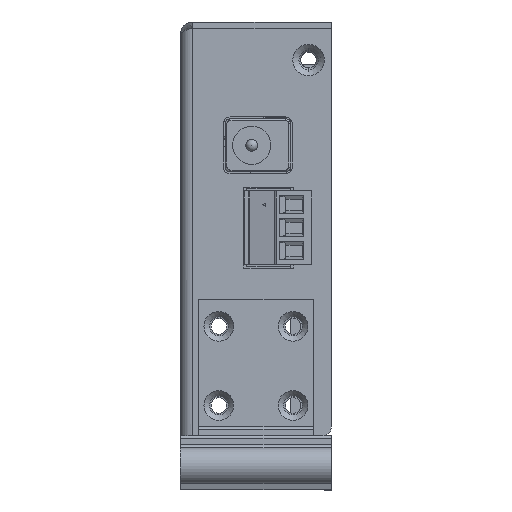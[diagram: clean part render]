
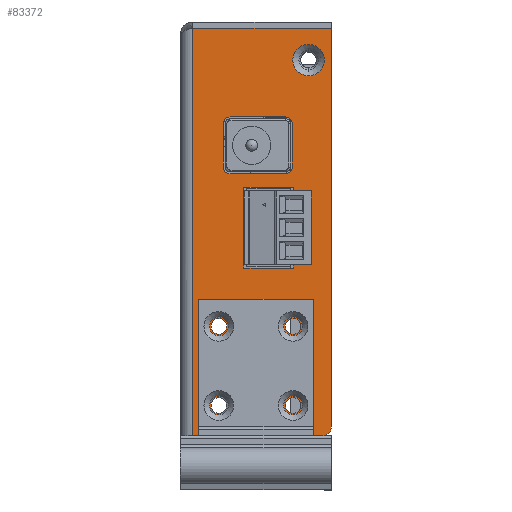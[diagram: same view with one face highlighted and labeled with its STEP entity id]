
A CAD part, left-side view. The second image highlights one B-rep face of the part: STEP entity #83372.
In plain terms, the highlighted planar face has unit normal (-1, 0, 0).
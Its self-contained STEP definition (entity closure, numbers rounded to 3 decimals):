
#350=FACE_BOUND('',#26896,.T.);
#351=FACE_BOUND('',#26897,.T.);
#352=FACE_BOUND('',#26898,.T.);
#353=FACE_BOUND('',#26899,.T.);
#354=FACE_BOUND('',#26900,.T.);
#355=FACE_BOUND('',#26901,.T.);
#356=FACE_BOUND('',#26902,.T.);
#357=FACE_BOUND('',#26903,.T.);
#1383=PLANE('',#89063);
#4465=LINE('',#128443,#12372);
#4469=LINE('',#128498,#12376);
#4513=LINE('',#128822,#12420);
#4514=LINE('',#128823,#12421);
#4515=LINE('',#128826,#12422);
#4516=LINE('',#128828,#12423);
#4517=LINE('',#128830,#12424);
#4518=LINE('',#128831,#12425);
#4519=LINE('',#128836,#12426);
#4520=LINE('',#128840,#12427);
#4521=LINE('',#128844,#12428);
#4522=LINE('',#128847,#12429);
#12372=VECTOR('',#101060,1000.);
#12376=VECTOR('',#101070,1000.);
#12420=VECTOR('',#101190,1000.);
#12421=VECTOR('',#101191,1000.);
#12422=VECTOR('',#101192,1000.);
#12423=VECTOR('',#101193,1000.);
#12424=VECTOR('',#101194,1000.);
#12425=VECTOR('',#101195,1000.);
#12426=VECTOR('',#101198,1000.);
#12427=VECTOR('',#101201,1000.);
#12428=VECTOR('',#101204,1000.);
#12429=VECTOR('',#101207,1000.);
#22155=FACE_OUTER_BOUND('',#26895,.T.);
#26895=EDGE_LOOP('',(#61033,#61034,#61035,#61036,#61037));
#26896=EDGE_LOOP('',(#61038));
#26897=EDGE_LOOP('',(#61039));
#26898=EDGE_LOOP('',(#61040));
#26899=EDGE_LOOP('',(#61041));
#26900=EDGE_LOOP('',(#61042));
#26901=EDGE_LOOP('',(#61043));
#26902=EDGE_LOOP('',(#61044,#61045,#61046,#61047));
#26903=EDGE_LOOP('',(#61048,#61049,#61050,#61051,#61052,#61053,#61054,#61055));
#31815=CIRCLE('',#89001,1.3);
#31817=CIRCLE('',#89004,1.3);
#31819=CIRCLE('',#89007,1.3);
#31821=CIRCLE('',#89010,1.3);
#31824=CIRCLE('',#89014,2.6);
#31826=CIRCLE('',#89017,2.6);
#31865=CIRCLE('',#89064,1.5);
#31866=CIRCLE('',#89065,1.1);
#31867=CIRCLE('',#89066,1.1);
#31868=CIRCLE('',#89067,1.1);
#31869=CIRCLE('',#89068,1.1);
#37171=VERTEX_POINT('',#128350);
#37173=VERTEX_POINT('',#128356);
#37175=VERTEX_POINT('',#128362);
#37177=VERTEX_POINT('',#128368);
#37180=VERTEX_POINT('',#128376);
#37182=VERTEX_POINT('',#128382);
#37191=VERTEX_POINT('',#128441);
#37192=VERTEX_POINT('',#128442);
#37197=VERTEX_POINT('',#128496);
#37271=VERTEX_POINT('',#128819);
#37272=VERTEX_POINT('',#128821);
#37273=VERTEX_POINT('',#128824);
#37274=VERTEX_POINT('',#128825);
#37275=VERTEX_POINT('',#128827);
#37276=VERTEX_POINT('',#128829);
#37277=VERTEX_POINT('',#128832);
#37278=VERTEX_POINT('',#128833);
#37279=VERTEX_POINT('',#128835);
#37280=VERTEX_POINT('',#128837);
#37281=VERTEX_POINT('',#128839);
#37282=VERTEX_POINT('',#128841);
#37283=VERTEX_POINT('',#128843);
#37284=VERTEX_POINT('',#128845);
#46216=EDGE_CURVE('',#37171,#37171,#31815,.T.);
#46219=EDGE_CURVE('',#37173,#37173,#31817,.T.);
#46222=EDGE_CURVE('',#37175,#37175,#31819,.T.);
#46225=EDGE_CURVE('',#37177,#37177,#31821,.T.);
#46230=EDGE_CURVE('',#37180,#37180,#31824,.T.);
#46233=EDGE_CURVE('',#37182,#37182,#31826,.T.);
#46244=EDGE_CURVE('',#37191,#37192,#4465,.T.);
#46251=EDGE_CURVE('',#37192,#37197,#4469,.T.);
#46332=EDGE_CURVE('',#37197,#37271,#31865,.T.);
#46333=EDGE_CURVE('',#37271,#37272,#4513,.T.);
#46334=EDGE_CURVE('',#37272,#37191,#4514,.T.);
#46335=EDGE_CURVE('',#37273,#37274,#4515,.T.);
#46336=EDGE_CURVE('',#37274,#37275,#4516,.T.);
#46337=EDGE_CURVE('',#37275,#37276,#4517,.T.);
#46338=EDGE_CURVE('',#37276,#37273,#4518,.T.);
#46339=EDGE_CURVE('',#37277,#37278,#31866,.T.);
#46340=EDGE_CURVE('',#37278,#37279,#4519,.T.);
#46341=EDGE_CURVE('',#37279,#37280,#31867,.T.);
#46342=EDGE_CURVE('',#37280,#37281,#4520,.T.);
#46343=EDGE_CURVE('',#37281,#37282,#31868,.T.);
#46344=EDGE_CURVE('',#37282,#37283,#4521,.T.);
#46345=EDGE_CURVE('',#37283,#37284,#31869,.T.);
#46346=EDGE_CURVE('',#37284,#37277,#4522,.T.);
#61033=ORIENTED_EDGE('',*,*,#46244,.T.);
#61034=ORIENTED_EDGE('',*,*,#46251,.T.);
#61035=ORIENTED_EDGE('',*,*,#46332,.T.);
#61036=ORIENTED_EDGE('',*,*,#46333,.T.);
#61037=ORIENTED_EDGE('',*,*,#46334,.T.);
#61038=ORIENTED_EDGE('',*,*,#46233,.T.);
#61039=ORIENTED_EDGE('',*,*,#46230,.T.);
#61040=ORIENTED_EDGE('',*,*,#46225,.T.);
#61041=ORIENTED_EDGE('',*,*,#46222,.T.);
#61042=ORIENTED_EDGE('',*,*,#46219,.T.);
#61043=ORIENTED_EDGE('',*,*,#46216,.T.);
#61044=ORIENTED_EDGE('',*,*,#46335,.T.);
#61045=ORIENTED_EDGE('',*,*,#46336,.T.);
#61046=ORIENTED_EDGE('',*,*,#46337,.T.);
#61047=ORIENTED_EDGE('',*,*,#46338,.T.);
#61048=ORIENTED_EDGE('',*,*,#46339,.T.);
#61049=ORIENTED_EDGE('',*,*,#46340,.T.);
#61050=ORIENTED_EDGE('',*,*,#46341,.T.);
#61051=ORIENTED_EDGE('',*,*,#46342,.T.);
#61052=ORIENTED_EDGE('',*,*,#46343,.T.);
#61053=ORIENTED_EDGE('',*,*,#46344,.T.);
#61054=ORIENTED_EDGE('',*,*,#46345,.T.);
#61055=ORIENTED_EDGE('',*,*,#46346,.T.);
#83372=ADVANCED_FACE('',(#22155,#350,#351,#352,#353,#354,#355,#356,#357),
#1383,.T.);
#89001=AXIS2_PLACEMENT_3D('',#128351,#101002,#101003);
#89004=AXIS2_PLACEMENT_3D('',#128357,#101009,#101010);
#89007=AXIS2_PLACEMENT_3D('',#128363,#101016,#101017);
#89010=AXIS2_PLACEMENT_3D('',#128369,#101023,#101024);
#89014=AXIS2_PLACEMENT_3D('',#128378,#101033,#101034);
#89017=AXIS2_PLACEMENT_3D('',#128384,#101040,#101041);
#89063=AXIS2_PLACEMENT_3D('',#128818,#101186,#101187);
#89064=AXIS2_PLACEMENT_3D('',#128820,#101188,#101189);
#89065=AXIS2_PLACEMENT_3D('',#128834,#101196,#101197);
#89066=AXIS2_PLACEMENT_3D('',#128838,#101199,#101200);
#89067=AXIS2_PLACEMENT_3D('',#128842,#101202,#101203);
#89068=AXIS2_PLACEMENT_3D('',#128846,#101205,#101206);
#101002=DIRECTION('center_axis',(1.,0.,0.));
#101003=DIRECTION('ref_axis',(0.,-1.,0.));
#101009=DIRECTION('center_axis',(1.,0.,0.));
#101010=DIRECTION('ref_axis',(0.,-1.,0.));
#101016=DIRECTION('center_axis',(1.,0.,0.));
#101017=DIRECTION('ref_axis',(0.,-1.,0.));
#101023=DIRECTION('center_axis',(1.,0.,0.));
#101024=DIRECTION('ref_axis',(0.,-1.,0.));
#101033=DIRECTION('center_axis',(1.,0.,0.));
#101034=DIRECTION('ref_axis',(0.,0.,-1.));
#101040=DIRECTION('center_axis',(1.,0.,0.));
#101041=DIRECTION('ref_axis',(0.,0.,-1.));
#101060=DIRECTION('',(0.,0.,-1.));
#101070=DIRECTION('',(0.,-1.,0.));
#101186=DIRECTION('center_axis',(-1.,0.,0.));
#101187=DIRECTION('ref_axis',(0.,0.,-1.));
#101188=DIRECTION('center_axis',(-1.,0.,0.));
#101189=DIRECTION('ref_axis',(0.,0.,-1.));
#101190=DIRECTION('',(0.,0.,1.));
#101191=DIRECTION('',(0.,1.,0.));
#101192=DIRECTION('',(0.,0.,1.));
#101193=DIRECTION('',(0.,-1.,0.));
#101194=DIRECTION('',(0.,0.,-1.));
#101195=DIRECTION('',(0.,1.,0.));
#101196=DIRECTION('center_axis',(1.,0.,0.));
#101197=DIRECTION('ref_axis',(0.,0.,-1.));
#101198=DIRECTION('',(0.,-1.,0.));
#101199=DIRECTION('center_axis',(1.,0.,0.));
#101200=DIRECTION('ref_axis',(0.,0.,-1.));
#101201=DIRECTION('',(0.,0.,-1.));
#101202=DIRECTION('center_axis',(1.,0.,0.));
#101203=DIRECTION('ref_axis',(0.,0.,-1.));
#101204=DIRECTION('',(0.,1.,0.));
#101205=DIRECTION('center_axis',(1.,0.,0.));
#101206=DIRECTION('ref_axis',(0.,0.,-1.));
#101207=DIRECTION('',(0.,0.,1.));
#128350=CARTESIAN_POINT('',(-70.079,18.999,-46.74));
#128351=CARTESIAN_POINT('Origin',(-70.079,17.699,-46.74));
#128356=CARTESIAN_POINT('',(-70.079,18.999,-33.64));
#128357=CARTESIAN_POINT('Origin',(-70.079,17.699,-33.64));
#128362=CARTESIAN_POINT('',(-70.079,6.699,-33.64));
#128363=CARTESIAN_POINT('Origin',(-70.079,5.399,-33.64));
#128368=CARTESIAN_POINT('',(-70.079,6.699,-46.74));
#128369=CARTESIAN_POINT('Origin',(-70.079,5.399,-46.74));
#128376=CARTESIAN_POINT('',(-70.079,2.849,13.06));
#128378=CARTESIAN_POINT('Origin',(-70.079,2.849,10.46));
#128382=CARTESIAN_POINT('',(-70.079,11.549,-44.34));
#128384=CARTESIAN_POINT('Origin',(-70.079,11.549,-46.94));
#128441=CARTESIAN_POINT('',(-70.079,22.049,15.76));
#128442=CARTESIAN_POINT('',(-70.079,22.049,-51.74));
#128443=CARTESIAN_POINT('',(-70.079,22.049,-17.99));
#128496=CARTESIAN_POINT('',(-70.079,0.549,-51.74));
#128498=CARTESIAN_POINT('',(-70.079,10.549,-51.74));
#128818=CARTESIAN_POINT('Origin',(-70.079,22.509,17.11));
#128819=CARTESIAN_POINT('',(-70.079,-0.951,-50.24));
#128820=CARTESIAN_POINT('Origin',(-70.079,0.549,-50.24));
#128821=CARTESIAN_POINT('',(-70.079,-0.951,15.76));
#128822=CARTESIAN_POINT('',(-70.079,-0.951,-17.99));
#128823=CARTESIAN_POINT('',(-70.079,10.549,15.76));
#128824=CARTESIAN_POINT('',(-70.079,13.549,-23.98));
#128825=CARTESIAN_POINT('',(-70.079,13.549,-10.58));
#128826=CARTESIAN_POINT('',(-70.079,13.549,-17.99));
#128827=CARTESIAN_POINT('',(-70.079,5.349,-10.58));
#128828=CARTESIAN_POINT('',(-70.079,10.549,-10.58));
#128829=CARTESIAN_POINT('',(-70.079,5.349,-23.98));
#128830=CARTESIAN_POINT('',(-70.079,5.349,-17.99));
#128831=CARTESIAN_POINT('',(-70.079,10.549,-23.98));
#128832=CARTESIAN_POINT('',(-70.079,16.949,-0.06));
#128833=CARTESIAN_POINT('',(-70.079,15.849,1.04));
#128834=CARTESIAN_POINT('Origin',(-70.079,15.849,-0.06));
#128835=CARTESIAN_POINT('',(-70.079,6.649,1.04));
#128836=CARTESIAN_POINT('',(-70.079,10.549,1.04));
#128837=CARTESIAN_POINT('',(-70.079,5.549,-0.06));
#128838=CARTESIAN_POINT('Origin',(-70.079,6.649,-0.06));
#128839=CARTESIAN_POINT('',(-70.079,5.549,-7.26));
#128840=CARTESIAN_POINT('',(-70.079,5.549,-17.99));
#128841=CARTESIAN_POINT('',(-70.079,6.649,-8.36));
#128842=CARTESIAN_POINT('Origin',(-70.079,6.649,-7.26));
#128843=CARTESIAN_POINT('',(-70.079,15.849,-8.36));
#128844=CARTESIAN_POINT('',(-70.079,10.549,-8.36));
#128845=CARTESIAN_POINT('',(-70.079,16.949,-7.26));
#128846=CARTESIAN_POINT('Origin',(-70.079,15.849,-7.26));
#128847=CARTESIAN_POINT('',(-70.079,16.949,-17.99));
